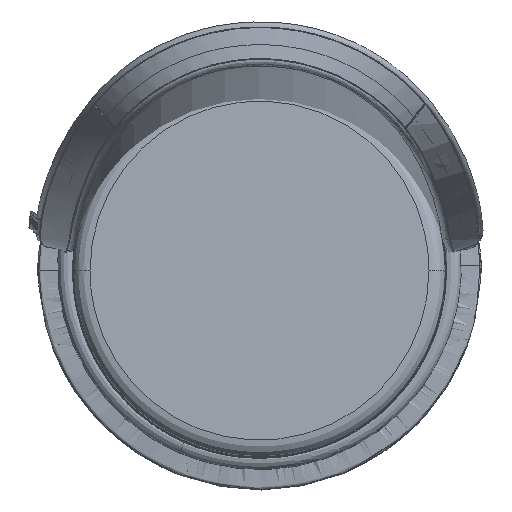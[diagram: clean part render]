
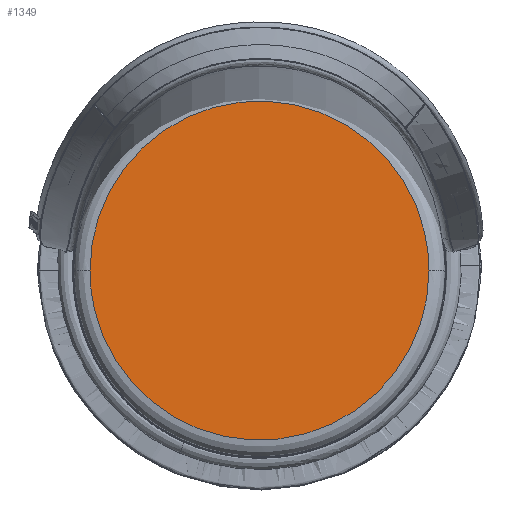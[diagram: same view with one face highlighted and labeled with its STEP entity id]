
A CAD part, top view. The second image highlights one B-rep face of the part: STEP entity #1349.
In plain terms, the highlighted planar face has unit normal (0, 0.039, 0.999).
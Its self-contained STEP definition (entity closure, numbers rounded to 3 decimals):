
#411=(
BOUNDED_CURVE()
B_SPLINE_CURVE(3,(#81597,#81598,#81599,#81600,#81601,#81602,#81603,#81604,
#81605,#81606,#81607,#81608,#81609,#81610,#81611,#81612,#81613,#81614,#81615,
#81616,#81617,#81618,#81619,#81620,#81621,#81622,#81623),.UNSPECIFIED.,
 .F.,.F.)
B_SPLINE_CURVE_WITH_KNOTS((4,1,1,1,1,1,1,1,1,1,1,3,1,1,1,1,1,1,1,1,1,1,
4),(-0.879,41.474,50.8,86.958,
125.562,164.774,203.963,242.499,278.554,
287.848,298.648,329.147,370.524,379.898,
415.877,454.416,494.029,532.9,571.5,
607.811,616.977,628.863,659.174),
 .UNSPECIFIED.)
CURVE()
GEOMETRIC_REPRESENTATION_ITEM()
RATIONAL_B_SPLINE_CURVE((1.,1.,1.,1.,1.,
1.,1.,1.,1.,1.,1.,1.,1.,1.,
1.,1.,1.,1.,1.,1.,1.,
1.,1.,1.,1.,1.,1.))
REPRESENTATION_ITEM('')
);
#446=(
BOUNDED_CURVE()
B_SPLINE_CURVE(3,(#82160,#82161,#82162,#82163,#82164,#82165,#82166,#82167,
#82168,#82169,#82170,#82171,#82172,#82173,#82174,#82175,#82176,#82177,#82178,
#82179,#82180,#82181,#82182,#82183,#82184,#82185,#82186),.UNSPECIFIED.,
 .F.,.F.)
B_SPLINE_CURVE_WITH_KNOTS((4,1,1,1,1,1,1,1,1,1,1,3,1,1,1,1,1,1,1,1,1,1,
4),(659.174,699.958,709.463,745.525,
784.246,823.923,863.109,901.885,938.186,
947.556,958.445,989.2,1020.257,1030.884,
1040.294,1076.557,1115.334,1154.648,1194.197,
1232.917,1269.017,1278.481,1319.227),
 .UNSPECIFIED.)
CURVE()
GEOMETRIC_REPRESENTATION_ITEM()
RATIONAL_B_SPLINE_CURVE((1.,1.,1.,1.,1.,1.,
1.,1.,1.,1.,1.,
1.,1.,1.,1.,1.,1.,1.,1.,1.,
1.,1.,1.,1.,1.,1.,1.))
REPRESENTATION_ITEM('')
);
#1349=ADVANCED_FACE('',(#4009),#43931,.T.);
#4009=FACE_OUTER_BOUND('',#6683,.T.);
#6683=EDGE_LOOP('',(#9649,#9650));
#9649=ORIENTED_EDGE('',*,*,#24324,.F.);
#9650=ORIENTED_EDGE('',*,*,#24272,.F.);
#24272=EDGE_CURVE('',#39038,#39070,#411,.T.);
#24324=EDGE_CURVE('',#39070,#39038,#446,.T.);
#39038=VERTEX_POINT('',#81526);
#39070=VERTEX_POINT('',#81558);
#43931=PLANE('',#46335);
#46335=AXIS2_PLACEMENT_3D('',#81021,#49024,$);
#49024=DIRECTION('',(0.,0.039,0.999));
#81021=CARTESIAN_POINT('',(9765.4,229.6,40.634));
#81526=CARTESIAN_POINT('',(10210.,-4.122,49.673));
#81558=CARTESIAN_POINT('',(9790.,-4.122,49.673));
#81597=CARTESIAN_POINT('',(10210.,-4.122,49.673));
#81598=CARTESIAN_POINT('',(10210.002,-18.226,50.219));
#81599=CARTESIAN_POINT('',(10208.259,-35.435,50.884));
#81600=CARTESIAN_POINT('',(10201.77,-63.966,51.988));
#81601=CARTESIAN_POINT('',(10192.612,-90.541,53.016));
#81602=CARTESIAN_POINT('',(10174.01,-123.818,54.303));
#81603=CARTESIAN_POINT('',(10148.944,-153.89,55.466));
#81604=CARTESIAN_POINT('',(10118.745,-178.78,56.428));
#81605=CARTESIAN_POINT('',(10085.408,-197.181,57.14));
#81606=CARTESIAN_POINT('',(10058.83,-206.188,57.488));
#81607=CARTESIAN_POINT('',(10040.556,-210.25,57.646));
#81608=CARTESIAN_POINT('',(10023.933,-213.12,57.757));
#81609=CARTESIAN_POINT('',(10010.166,-214.122,57.795));
#81610=CARTESIAN_POINT('',(10000.,-214.122,57.795));
#81611=CARTESIAN_POINT('',(9986.208,-214.124,57.795));
#81612=CARTESIAN_POINT('',(9969.292,-212.449,57.731));
#81613=CARTESIAN_POINT('',(9941.068,-206.157,57.487));
#81614=CARTESIAN_POINT('',(9914.494,-197.135,57.138));
#81615=CARTESIAN_POINT('',(9881.061,-178.665,56.424));
#81616=CARTESIAN_POINT('',(9850.873,-153.712,55.459));
#81617=CARTESIAN_POINT('',(9825.839,-123.581,54.294));
#81618=CARTESIAN_POINT('',(9807.295,-90.345,53.008));
#81619=CARTESIAN_POINT('',(9798.169,-63.762,51.98));
#81620=CARTESIAN_POINT('',(9793.952,-45.125,51.259));
#81621=CARTESIAN_POINT('',(9791.015,-28.268,50.607));
#81622=CARTESIAN_POINT('',(9790.,-14.215,50.064));
#81623=CARTESIAN_POINT('',(9790.,-4.122,49.673));
#82160=CARTESIAN_POINT('',(9790.,-4.122,49.673));
#82161=CARTESIAN_POINT('',(9789.998,9.46,49.148));
#82162=CARTESIAN_POINT('',(9791.631,26.206,48.5));
#82163=CARTESIAN_POINT('',(9797.813,54.298,47.414));
#82164=CARTESIAN_POINT('',(9806.809,80.998,46.381));
#82165=CARTESIAN_POINT('',(9825.263,114.545,45.084));
#82166=CARTESIAN_POINT('',(9850.293,144.905,43.909));
#82167=CARTESIAN_POINT('',(9880.564,170.075,42.936));
#82168=CARTESIAN_POINT('',(9913.975,188.679,42.216));
#82169=CARTESIAN_POINT('',(9940.709,197.816,41.863));
#82170=CARTESIAN_POINT('',(9959.109,201.942,41.703));
#82171=CARTESIAN_POINT('',(9975.867,204.86,41.591));
#82172=CARTESIAN_POINT('',(9989.748,205.879,41.551));
#82173=CARTESIAN_POINT('',(10000.,205.878,41.551));
#82174=CARTESIAN_POINT('',(10010.352,205.879,41.551));
#82175=CARTESIAN_POINT('',(10024.247,204.849,41.591));
#82176=CARTESIAN_POINT('',(10041.028,201.913,41.705));
#82177=CARTESIAN_POINT('',(10059.343,197.801,41.864));
#82178=CARTESIAN_POINT('',(10086.074,188.656,42.217));
#82179=CARTESIAN_POINT('',(10119.508,170.03,42.938));
#82180=CARTESIAN_POINT('',(10149.768,144.844,43.912));
#82181=CARTESIAN_POINT('',(10174.781,114.472,45.086));
#82182=CARTESIAN_POINT('',(10193.214,80.949,46.383));
#82183=CARTESIAN_POINT('',(10202.202,54.247,47.416));
#82184=CARTESIAN_POINT('',(10208.373,26.167,48.502));
#82185=CARTESIAN_POINT('',(10210.002,9.447,49.148));
#82186=CARTESIAN_POINT('',(10210.,-4.122,49.673));
